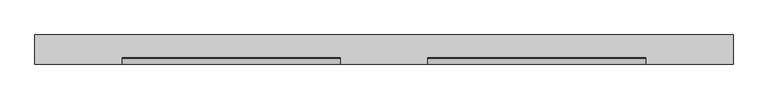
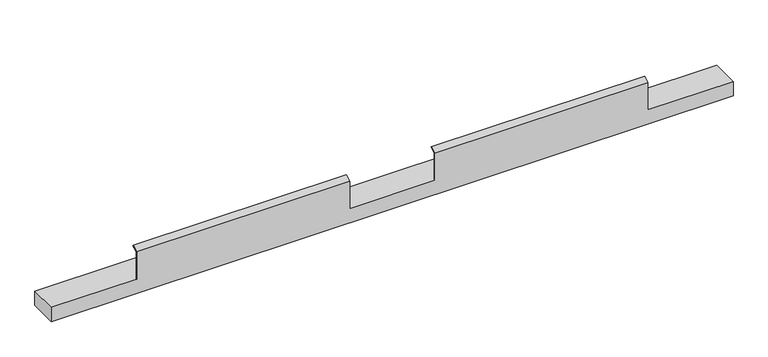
"""IFC4 building model written with IfcOpenShell, lengths in millimetres: proxy geometry, FOUNDATION^WORKSURFACES_OPEN OFFICE 3-48in."""

from ifc_helpers import new_model, si_unit, origin, place, context, project, spatial, faceted_brep, source, transform, mapped, element, save


def generic_models_39566638(model_context):
    return source(origin(), model_context, "Body", "Brep", [
        faceted_brep([(0.0, 50.8, -25.4), (0.0, 0.0, -25.4), (0.0, 0.0, 1.51892), (0.0, 50.8, 1.51892), (1219.2, 0.0, -25.4), (1219.2, 0.0, 1.51892), (1066.8, 0.0, 1.51892), (1066.8, 0.0, 53.1958689), (685.8, 0.0, 53.1958689), (685.8, 0.0, 1.51892), (533.4, 0.0, 1.51892), (533.4, 0.0, 53.1958689), (152.4, 0.0, 53.1958689), (152.4, 0.0, 1.51892), (1219.2, 50.8, 1.51892), (1219.2, 50.8, -25.4), (685.8, 1.51892, 1.51892), (1066.8, 1.51892, 1.51892), (152.4, 1.51892, 1.51892), (533.4, 1.51892, 1.51892), (533.4, 1.51892, 52.31892), (533.4, 11.04392, 57.8181813), (533.4, 10.28446, 59.1336046), (685.8, 10.28446, 59.1336046), (685.8, 11.04392, 57.8181813), (685.8, 1.51892, 52.31892), (152.4, 10.28446, 59.1336046), (152.4, 1.51892, 52.31892), (152.4, 11.04392, 57.8181813), (1066.8, 10.28446, 59.1336046), (1066.8, 11.04392, 57.8181813), (1066.8, 1.51892, 52.31892)], [[[0, 1, 2, 3]], [[1, 4, 5, 6, 7, 8, 9, 10, 11, 12, 13, 2]], [[14, 15, 0, 3]], [[0, 15, 4, 1]], [[16, 17, 6, 5, 14, 3, 2, 13, 18, 19, 10, 9]], [[11, 10, 19, 20, 21, 22]], [[9, 8, 23, 24, 25, 16]], [[11, 22, 26, 12]], [[20, 19, 18, 27]], [[22, 21, 28, 26]], [[24, 23, 29, 30]], [[21, 20, 27, 28]], [[25, 24, 30, 31]], [[23, 8, 7, 29]], [[16, 25, 31, 17]], [[6, 17, 31, 30, 29, 7]], [[18, 13, 12, 26, 28, 27]], [[4, 15, 14, 5]]]),
    ])


if __name__ == "__main__":
    model = new_model("IFC4")
    model_context = context("Model", 3, world=origin())
    ifc_project = project(units=[si_unit("LENGTHUNIT", "METRE", prefix="MILLI")], contexts=[model_context])
    site = spatial("IfcSite", under=ifc_project)
    building = spatial("IfcBuilding", under=site)
    placement = place(None, origin())
    generic_models_shape = generic_models_39566638(model_context)
    element("IfcBuildingElementProxy", 1, Name="FOUNDATION^WORKSURFACES_OPEN OFFICE 3-48in", ObjectType="FOUNDATION^WORKSURFACES_OPEN OFFICE 3-48in", at=placement, inside=building, context=model_context, shape_type="MappedRepresentation", body=[
        mapped(generic_models_shape, transform((0.0, 0.0, 0.0), x_axis=(1.0, 0.0, 0.0), y_axis=(0.0, 1.0, 0.0), z_axis=(0.0, 0.0, 1.0))),
    ])
    save(model, "model.ifc")
